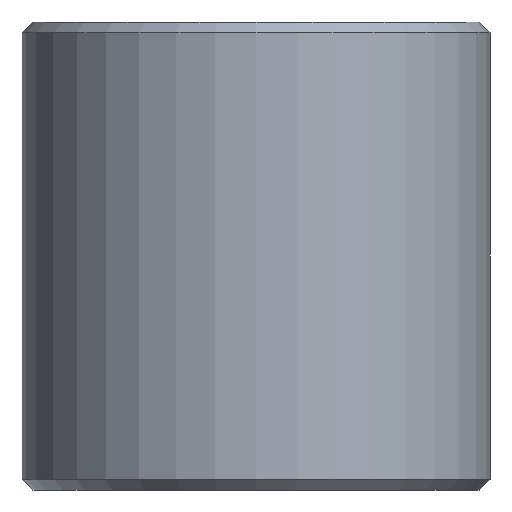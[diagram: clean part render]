
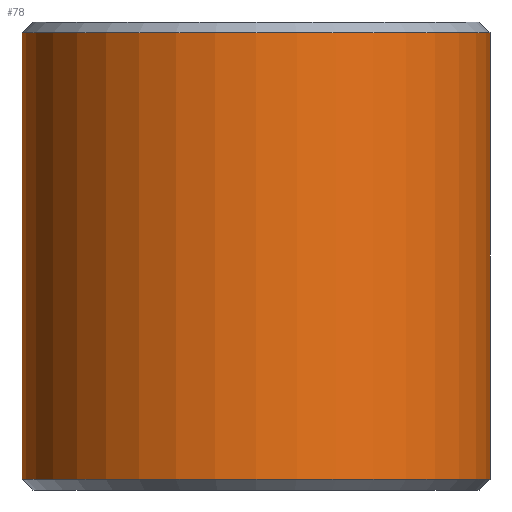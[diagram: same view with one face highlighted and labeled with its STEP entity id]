
A CAD part, front view. The second image highlights one B-rep face of the part: STEP entity #78.
In plain terms, the highlighted cylindrical face has radius 15 mm (diameter 30 mm), a full revolution.
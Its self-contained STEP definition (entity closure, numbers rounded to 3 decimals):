
#78=ADVANCED_FACE('',(#91,#92),#93,.T.);
#91=FACE_OUTER_BOUND('',#109,.T.);
#92=FACE_OUTER_BOUND('',#110,.T.);
#93=CYLINDRICAL_SURFACE('',#111,15.0);
#109=EDGE_LOOP('',(#133));
#110=EDGE_LOOP('',(#134));
#111=AXIS2_PLACEMENT_3D('',#135,#136,#137);
#133=ORIENTED_EDGE('',*,*,#152,.T.);
#134=ORIENTED_EDGE('',*,*,#153,.T.);
#135=CARTESIAN_POINT('',(0.0,0.0,15.0));
#136=DIRECTION('',(-0.0,-0.0,1.0));
#137=DIRECTION('',(-1.0,0.0,0.0));
#152=EDGE_CURVE('',#162,#162,#163,.F.);
#153=EDGE_CURVE('',#164,#164,#165,.T.);
#162=VERTEX_POINT('',#174);
#163=CIRCLE('',#175,15.0);
#164=VERTEX_POINT('',#176);
#165=CIRCLE('',#177,15.0);
#174=CARTESIAN_POINT('',(15.0,0.,14.3));
#175=AXIS2_PLACEMENT_3D('',#190,#191,#192);
#176=CARTESIAN_POINT('',(15.0,0.0,-14.3));
#177=AXIS2_PLACEMENT_3D('',#193,#194,#195);
#190=CARTESIAN_POINT('',(0.0,0.0,14.3));
#191=DIRECTION('',(0.0,0.0,1.0));
#192=DIRECTION('',(1.0,0.0,0.0));
#193=CARTESIAN_POINT('',(0.0,0.0,-14.3));
#194=DIRECTION('',(0.0,0.0,1.0));
#195=DIRECTION('',(1.0,0.0,0.0));
